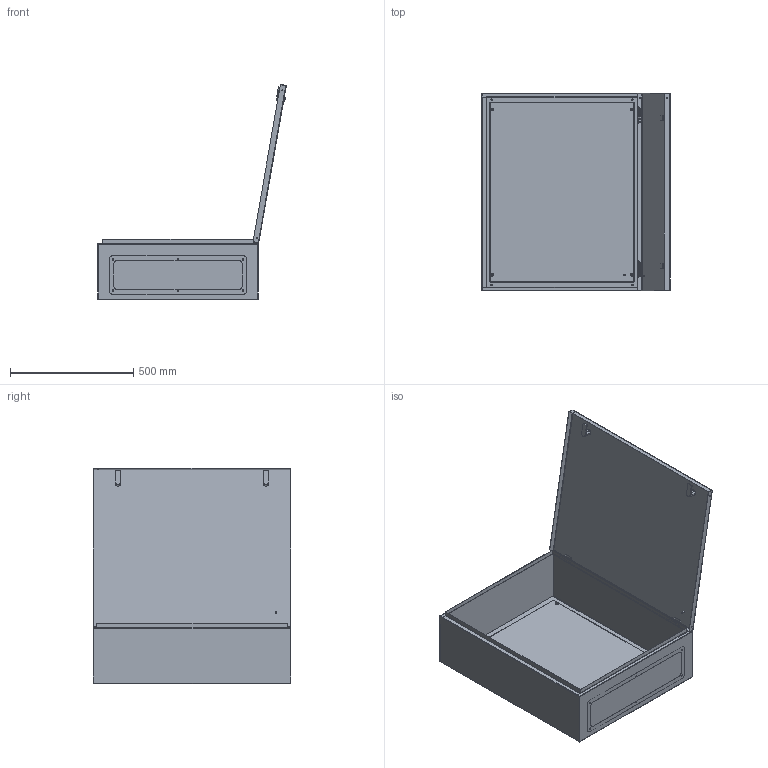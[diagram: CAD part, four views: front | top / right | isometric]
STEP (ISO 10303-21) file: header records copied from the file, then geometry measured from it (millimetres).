
FILE_DESCRIPTION (( 'STEP AP214' ), '1' );
FILE_NAME ('ﾙﾌﾏ04.STEP', '2019-12-17T10:42:36', ( '' ), ( '' ), 'SwSTEP 2.0', 'SolidWorks 2018', '' );
FILE_SCHEMA (( 'AUTOMOTIVE_DESIGN' ));
Length unit declared in the file: millimetre
Products named in the file (11): ﾙﾌﾏ04; ïåòëÿ_êîïðóñà_IP54; 拟屦黖IP54_04; 沓艜_眈翴錪04; Ïåòëÿ_Äâåðè_P54; 扻豵鵨04; ﾇ瑟鶴; Ïàíåëü_êîðïóñ_íèæ04; Ãàéêà_Ì6; 相礤朦_觐痫篑_忮瘐04; Ïàíåëü_Ââîäà04
Assembly tree (16 placements, depth 2):
  ﾙﾌﾏ04
    扻豵鵨04
    相礤朦_觐痫篑_忮瘐04
    Ïàíåëü_êîðïóñ_íèæ04
    沓艜_眈翴錪04
    Ãàéêà_Ì6  x4
    拟屦黖IP54_04
    Ïåòëÿ_Äâåðè_P54  x2
    ïåòëÿ_êîïðóñà_IP54  x2
    Ïàíåëü_Ââîäà04
    ﾇ瑟鶴  x2
Bounding box: 763.2 x 800 x 871.46 mm (x, y, z)
Volume: 2828764.3 mm3; surface area: 4695466.2 mm2
Topology: 16 solids, 16 shells, 565 faces, 1318 edges, 798 vertices
Faces by surface type: plane 315, cylinder 184, cone 50, bspline 16
Entity records: 13511 total; most frequent: CARTESIAN_POINT 3063, DIRECTION 2071, ORIENTED_EDGE 1978, EDGE_CURVE 989, AXIS2_PLACEMENT_3D 716, LINE 639, VECTOR 639, VERTEX_POINT 596
